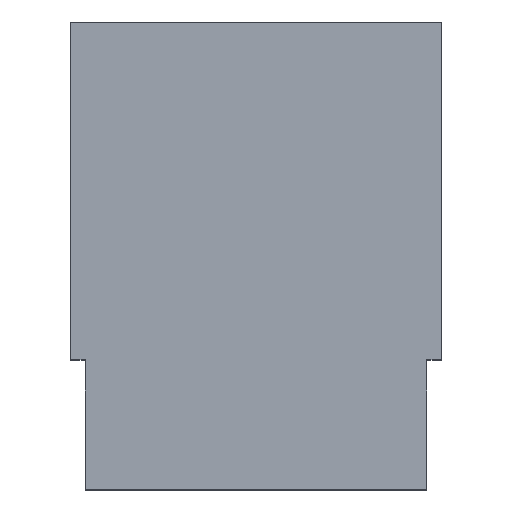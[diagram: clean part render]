
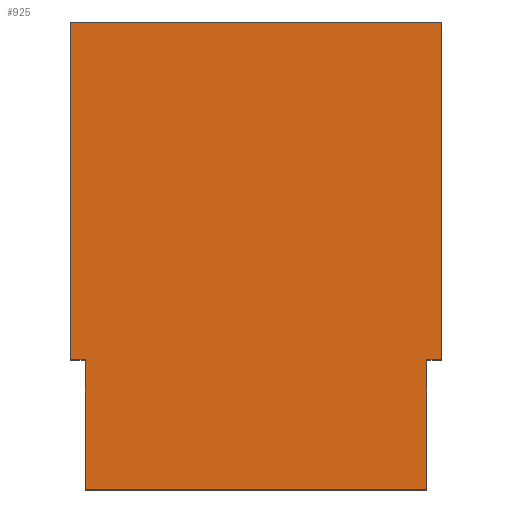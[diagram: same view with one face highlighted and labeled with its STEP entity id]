
A CAD part, top view. The second image highlights one B-rep face of the part: STEP entity #925.
In plain terms, the highlighted planar face has unit normal (0, 0, 1) as drawn and (0, 0, -1) by its records, which use the part's own axes.
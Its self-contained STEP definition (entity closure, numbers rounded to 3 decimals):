
#2=DIRECTION('',(1.,0.,0.));
#3=VECTOR('',#2,4.6);
#4=CARTESIAN_POINT('',(-2.3,0.,-1.15));
#5=LINE('',#4,#3);
#6=DIRECTION('',(0.,1.,0.));
#7=VECTOR('',#6,1.75);
#8=CARTESIAN_POINT('',(2.3,0.,-1.15));
#9=LINE('',#8,#7);
#10=DIRECTION('',(1.,0.,0.));
#11=VECTOR('',#10,0.2);
#12=CARTESIAN_POINT('',(2.3,1.75,-1.15));
#13=LINE('',#12,#11);
#14=DIRECTION('',(0.,1.,0.));
#15=VECTOR('',#14,4.55);
#16=CARTESIAN_POINT('',(2.5,1.75,-1.15));
#17=LINE('',#16,#15);
#18=DIRECTION('',(-1.,0.,0.));
#19=VECTOR('',#18,5.);
#20=CARTESIAN_POINT('',(2.5,6.3,-1.15));
#21=LINE('',#20,#19);
#22=DIRECTION('',(0.,-1.,0.));
#23=VECTOR('',#22,4.55);
#24=CARTESIAN_POINT('',(-2.5,6.3,-1.15));
#25=LINE('',#24,#23);
#26=DIRECTION('',(1.,0.,0.));
#27=VECTOR('',#26,0.2);
#28=CARTESIAN_POINT('',(-2.5,1.75,-1.15));
#29=LINE('',#28,#27);
#30=DIRECTION('',(0.,-1.,0.));
#31=VECTOR('',#30,1.75);
#32=CARTESIAN_POINT('',(-2.3,1.75,-1.15));
#33=LINE('',#32,#31);
#690=CARTESIAN_POINT('',(-2.3,0.,-1.15));
#691=CARTESIAN_POINT('',(2.3,0.,-1.15));
#692=VERTEX_POINT('',#690);
#693=VERTEX_POINT('',#691);
#694=CARTESIAN_POINT('',(2.3,1.75,-1.15));
#695=VERTEX_POINT('',#694);
#696=CARTESIAN_POINT('',(2.5,1.75,-1.15));
#697=VERTEX_POINT('',#696);
#698=CARTESIAN_POINT('',(2.5,6.3,-1.15));
#699=VERTEX_POINT('',#698);
#700=CARTESIAN_POINT('',(-2.5,6.3,-1.15));
#701=VERTEX_POINT('',#700);
#702=CARTESIAN_POINT('',(-2.5,1.75,-1.15));
#703=VERTEX_POINT('',#702);
#704=CARTESIAN_POINT('',(-2.3,1.75,-1.15));
#705=VERTEX_POINT('',#704);
#902=CARTESIAN_POINT('',(0.,0.,-1.15));
#903=DIRECTION('',(0.,0.,1.));
#904=DIRECTION('',(1.,0.,0.));
#905=AXIS2_PLACEMENT_3D('',#902,#903,#904);
#906=PLANE('',#905);
#908=ORIENTED_EDGE('',*,*,#907,.T.);
#910=ORIENTED_EDGE('',*,*,#909,.T.);
#912=ORIENTED_EDGE('',*,*,#911,.T.);
#914=ORIENTED_EDGE('',*,*,#913,.T.);
#916=ORIENTED_EDGE('',*,*,#915,.T.);
#918=ORIENTED_EDGE('',*,*,#917,.T.);
#920=ORIENTED_EDGE('',*,*,#919,.T.);
#922=ORIENTED_EDGE('',*,*,#921,.T.);
#923=EDGE_LOOP('',(#908,#910,#912,#914,#916,#918,#920,#922));
#924=FACE_OUTER_BOUND('',#923,.F.);
#925=ADVANCED_FACE('',(#924),#906,.F.);
#907=EDGE_CURVE('',#692,#693,#5,.T.);
#909=EDGE_CURVE('',#693,#695,#9,.T.);
#911=EDGE_CURVE('',#695,#697,#13,.T.);
#913=EDGE_CURVE('',#697,#699,#17,.T.);
#915=EDGE_CURVE('',#699,#701,#21,.T.);
#917=EDGE_CURVE('',#701,#703,#25,.T.);
#919=EDGE_CURVE('',#703,#705,#29,.T.);
#921=EDGE_CURVE('',#705,#692,#33,.T.);
